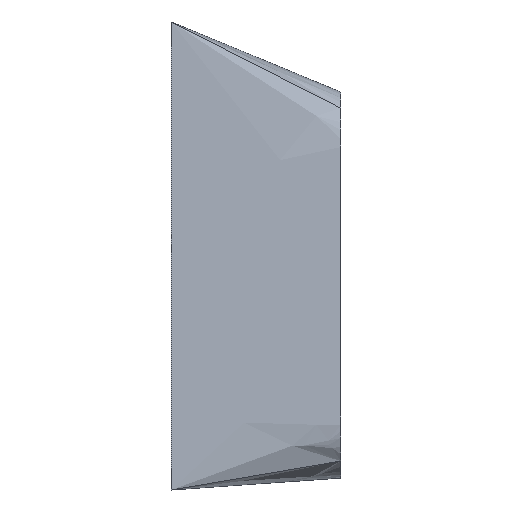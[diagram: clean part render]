
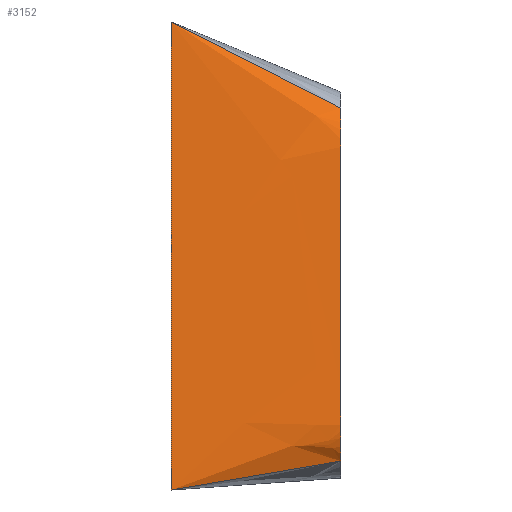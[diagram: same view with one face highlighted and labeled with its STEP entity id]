
A CAD part, left-side view. The second image highlights one B-rep face of the part: STEP entity #3152.
In plain terms, the highlighted free-form (B-spline) face has degree [3, 3] with [11, 5] control points.
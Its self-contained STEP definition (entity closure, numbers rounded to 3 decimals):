
#19=B_SPLINE_SURFACE_WITH_KNOTS('',3,3,((#5477,#5478,#5479,#5480,#5481),
(#5482,#5483,#5484,#5485,#5486),(#5487,#5488,#5489,#5490,#5491),(#5492,
#5493,#5494,#5495,#5496),(#5497,#5498,#5499,#5500,#5501),(#5502,#5503,#5504,
#5505,#5506),(#5507,#5508,#5509,#5510,#5511),(#5512,#5513,#5514,#5515,#5516),
(#5517,#5518,#5519,#5520,#5521),(#5522,#5523,#5524,#5525,#5526),(#5527,
#5528,#5529,#5530,#5531)),.UNSPECIFIED.,.F.,.F.,.F.,(4,2,1,1,1,2,4),(4,
1,4),(0.,0.123,0.275,0.427,
0.731,0.883,1.),(0.,0.857,
1.),.UNSPECIFIED.);
#97=B_SPLINE_CURVE_WITH_KNOTS('',3,(#5158,#5159,#5160,#5161,#5162,#5163,
#5164,#5165,#5166,#5167,#5168),.UNSPECIFIED.,.F.,.F.,(4,2,1,1,1,2,4),(0.,
0.123,0.275,0.427,0.731,
0.883,1.),.UNSPECIFIED.);
#199=LINE('',#4305,#517);
#473=LINE('',#5532,#791);
#474=LINE('',#5533,#792);
#517=VECTOR('',#3489,10.);
#791=VECTOR('',#4139,35.157);
#792=VECTOR('',#4140,32.107);
#949=FACE_OUTER_BOUND('',#1168,.T.);
#1168=EDGE_LOOP('',(#2683,#2684,#2685,#2686));
#1310=VERTEX_POINT('',#4302);
#1311=VERTEX_POINT('',#4304);
#1561=VERTEX_POINT('',#5156);
#1562=VERTEX_POINT('',#5157);
#1605=EDGE_CURVE('',#1311,#1310,#199,.T.);
#1958=EDGE_CURVE('',#1561,#1562,#97,.T.);
#1978=EDGE_CURVE('',#1311,#1561,#473,.T.);
#1979=EDGE_CURVE('',#1310,#1562,#474,.T.);
#2683=ORIENTED_EDGE('',*,*,#1958,.F.);
#2684=ORIENTED_EDGE('',*,*,#1978,.F.);
#2685=ORIENTED_EDGE('',*,*,#1605,.T.);
#2686=ORIENTED_EDGE('',*,*,#1979,.T.);
#3152=ADVANCED_FACE('',(#949),#19,.T.);
#3489=DIRECTION('',(0.,0.,-1.));
#4139=DIRECTION('',(0.289,-0.853,-0.434));
#4140=DIRECTION('',(0.319,-0.934,0.16));
#4302=CARTESIAN_POINT('',(-41.774,-330.,-17.916));
#4304=CARTESIAN_POINT('',(-41.774,-330.,65.084));
#4305=CARTESIAN_POINT('',(-41.774,-330.,65.084));
#5156=CARTESIAN_POINT('',(-31.617,-360.,49.824));
#5157=CARTESIAN_POINT('',(-31.547,-360.,-12.792));
#5158=CARTESIAN_POINT('Ctrl Pts',(-31.617,-360.,49.824));
#5159=CARTESIAN_POINT('Ctrl Pts',(-33.393,-360.,47.902));
#5160=CARTESIAN_POINT('Ctrl Pts',(-34.281,-360.,45.236));
#5161=CARTESIAN_POINT('Ctrl Pts',(-34.263,-360.,39.374));
#5162=CARTESIAN_POINT('Ctrl Pts',(-34.271,-360.,32.883));
#5163=CARTESIAN_POINT('Ctrl Pts',(-34.267,-360.,19.909));
#5164=CARTESIAN_POINT('Ctrl Pts',(-34.275,-360.,6.932));
#5165=CARTESIAN_POINT('Ctrl Pts',(-34.266,-360.,-2.798));
#5166=CARTESIAN_POINT('Ctrl Pts',(-34.28,-360.,-8.539));
#5167=CARTESIAN_POINT('Ctrl Pts',(-33.285,-360.,-11.002));
#5168=CARTESIAN_POINT('Ctrl Pts',(-31.547,-360.,-12.792));
#5477=CARTESIAN_POINT('Ctrl Pts',(-41.774,-330.,65.084));
#5478=CARTESIAN_POINT('Ctrl Pts',(-38.872,-338.571,60.724));
#5479=CARTESIAN_POINT('Ctrl Pts',(-35.486,-348.571,55.637));
#5480=CARTESIAN_POINT('Ctrl Pts',(-32.1,-358.571,50.551));
#5481=CARTESIAN_POINT('Ctrl Pts',(-31.617,-360.,49.824));
#5482=CARTESIAN_POINT('Ctrl Pts',(-41.774,-330.,61.676));
#5483=CARTESIAN_POINT('Ctrl Pts',(-39.383,-338.571,57.741));
#5484=CARTESIAN_POINT('Ctrl Pts',(-36.582,-348.571,53.15));
#5485=CARTESIAN_POINT('Ctrl Pts',(-33.792,-358.571,48.558));
#5486=CARTESIAN_POINT('Ctrl Pts',(-33.393,-360.,47.902));
#5487=CARTESIAN_POINT('Ctrl Pts',(-41.774,-330.,58.268));
#5488=CARTESIAN_POINT('Ctrl Pts',(-39.632,-338.571,54.545));
#5489=CARTESIAN_POINT('Ctrl Pts',(-37.135,-348.571,50.2));
#5490=CARTESIAN_POINT('Ctrl Pts',(-34.637,-358.571,45.857));
#5491=CARTESIAN_POINT('Ctrl Pts',(-34.281,-360.,45.236));
#5492=CARTESIAN_POINT('Ctrl Pts',(-41.774,-330.,50.656));
#5493=CARTESIAN_POINT('Ctrl Pts',(-39.63,-338.571,47.432));
#5494=CARTESIAN_POINT('Ctrl Pts',(-37.122,-348.571,43.672));
#5495=CARTESIAN_POINT('Ctrl Pts',(-34.621,-358.571,39.911));
#5496=CARTESIAN_POINT('Ctrl Pts',(-34.263,-360.,39.374));
#5497=CARTESIAN_POINT('Ctrl Pts',(-41.774,-330.,42.247));
#5498=CARTESIAN_POINT('Ctrl Pts',(-39.631,-338.571,39.571));
#5499=CARTESIAN_POINT('Ctrl Pts',(-37.128,-348.571,36.451));
#5500=CARTESIAN_POINT('Ctrl Pts',(-34.628,-358.571,33.329));
#5501=CARTESIAN_POINT('Ctrl Pts',(-34.271,-360.,32.883));
#5502=CARTESIAN_POINT('Ctrl Pts',(-41.774,-330.,25.429));
#5503=CARTESIAN_POINT('Ctrl Pts',(-39.63,-338.571,23.851));
#5504=CARTESIAN_POINT('Ctrl Pts',(-37.125,-348.571,22.012));
#5505=CARTESIAN_POINT('Ctrl Pts',(-34.624,-358.571,20.172));
#5506=CARTESIAN_POINT('Ctrl Pts',(-34.267,-360.,19.909));
#5507=CARTESIAN_POINT('Ctrl Pts',(-41.774,-330.,8.612));
#5508=CARTESIAN_POINT('Ctrl Pts',(-39.632,-338.571,8.131));
#5509=CARTESIAN_POINT('Ctrl Pts',(-37.131,-348.571,7.572));
#5510=CARTESIAN_POINT('Ctrl Pts',(-34.632,-358.571,7.012));
#5511=CARTESIAN_POINT('Ctrl Pts',(-34.275,-360.,6.932));
#5512=CARTESIAN_POINT('Ctrl Pts',(-41.774,-330.,-4.002));
#5513=CARTESIAN_POINT('Ctrl Pts',(-39.63,-338.571,-3.659));
#5514=CARTESIAN_POINT('Ctrl Pts',(-37.125,-348.571,-3.255));
#5515=CARTESIAN_POINT('Ctrl Pts',(-34.623,-358.571,-2.855));
#5516=CARTESIAN_POINT('Ctrl Pts',(-34.266,-360.,-2.798));
#5517=CARTESIAN_POINT('Ctrl Pts',(-41.774,-330.,-11.443));
#5518=CARTESIAN_POINT('Ctrl Pts',(-39.633,-338.571,-10.613));
#5519=CARTESIAN_POINT('Ctrl Pts',(-37.135,-348.571,-9.645));
#5520=CARTESIAN_POINT('Ctrl Pts',(-34.637,-358.571,-8.677));
#5521=CARTESIAN_POINT('Ctrl Pts',(-34.28,-360.,-8.539));
#5522=CARTESIAN_POINT('Ctrl Pts',(-41.774,-330.,-14.679));
#5523=CARTESIAN_POINT('Ctrl Pts',(-39.351,-338.571,-13.631));
#5524=CARTESIAN_POINT('Ctrl Pts',(-36.516,-348.571,-12.4));
#5525=CARTESIAN_POINT('Ctrl Pts',(-33.689,-358.571,-11.177));
#5526=CARTESIAN_POINT('Ctrl Pts',(-33.285,-360.,-11.002));
#5527=CARTESIAN_POINT('Ctrl Pts',(-41.774,-330.,-17.916));
#5528=CARTESIAN_POINT('Ctrl Pts',(-38.852,-338.571,-16.452));
#5529=CARTESIAN_POINT('Ctrl Pts',(-35.443,-348.571,-14.744));
#5530=CARTESIAN_POINT('Ctrl Pts',(-32.034,-358.571,-13.036));
#5531=CARTESIAN_POINT('Ctrl Pts',(-31.547,-360.,-12.792));
#5532=CARTESIAN_POINT('',(-41.774,-330.,65.084));
#5533=CARTESIAN_POINT('',(-41.774,-330.,-17.916));
